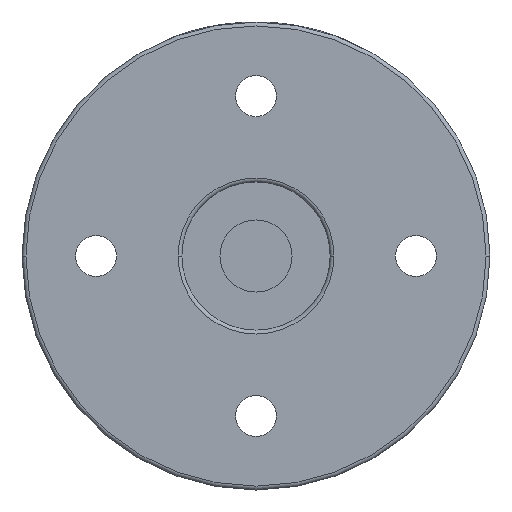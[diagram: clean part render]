
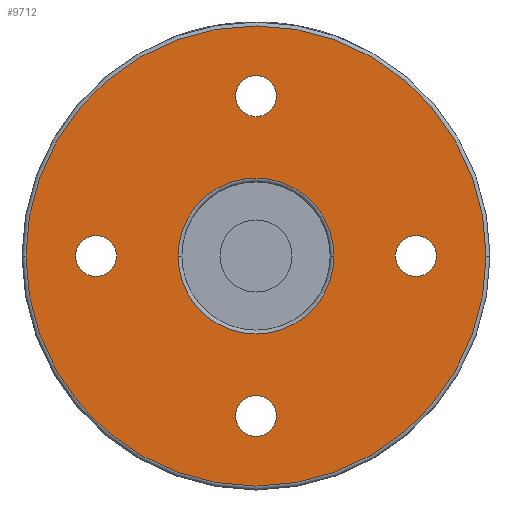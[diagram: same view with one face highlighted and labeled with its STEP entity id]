
A CAD part, front view. The second image highlights one B-rep face of the part: STEP entity #9712.
In plain terms, the highlighted planar face has unit normal (0, -1, 0) as drawn and (0, 0, 1) by its records, which use the part's own axes.
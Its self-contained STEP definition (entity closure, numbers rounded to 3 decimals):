
#166 = VERTEX_POINT ( 'NONE', #3824 ) ;
#377 = AXIS2_PLACEMENT_3D ( 'NONE', #1716, #9563, #7473 ) ;
#520 = CARTESIAN_POINT ( 'NONE',  ( 35.75, 0., 35. ) ) ;
#676 = EDGE_CURVE ( 'NONE', #6765, #10654, #13792, .T. ) ;
#801 = ORIENTED_EDGE ( 'NONE', *, *, #11173, .T. ) ;
#800 = AXIS2_PLACEMENT_3D ( 'NONE', #3874, #2967, #6137 ) ;
#1041 = AXIS2_PLACEMENT_3D ( 'NONE', #6013, #12814, #2551 ) ;
#1268 = DIRECTION ( 'NONE',  ( 1., 0., 0. ) ) ;
#1273 = ORIENTED_EDGE ( 'NONE', *, *, #13368, .T. ) ;
#1646 = FACE_BOUND ( 'NONE', #10954, .T. ) ;
#1716 = CARTESIAN_POINT ( 'NONE',  ( 41., 0., 35. ) ) ;
#1816 = DIRECTION ( 'NONE',  ( 1., 0., 0. ) ) ;
#2011 = CARTESIAN_POINT ( 'NONE',  ( -5.25, 41., 35. ) ) ;
#2174 = VERTEX_POINT ( 'NONE', #8607 ) ;
#2231 = CIRCLE ( 'NONE', #3890, 5.25 ) ;
#2266 = ORIENTED_EDGE ( 'NONE', *, *, #11697, .T. ) ;
#2473 = DIRECTION ( 'NONE',  ( 0., 0., -1. ) ) ;
#2551 = DIRECTION ( 'NONE',  ( 1., 0., 0. ) ) ;
#2788 = ORIENTED_EDGE ( 'NONE', *, *, #14202, .T. ) ;
#2918 = CARTESIAN_POINT ( 'NONE',  ( 5.25, -41., 35. ) ) ;
#2967 = DIRECTION ( 'NONE',  ( 0., 0., 1. ) ) ;
#3012 = EDGE_LOOP ( 'NONE', ( #6805, #14519 ) ) ;
#3289 = DIRECTION ( 'NONE',  ( 0., 0., -1. ) ) ;
#3545 = ORIENTED_EDGE ( 'NONE', *, *, #4214, .T. ) ;
#3628 = ORIENTED_EDGE ( 'NONE', *, *, #7937, .T. ) ;
#3798 = FACE_BOUND ( 'NONE', #4369, .T. ) ;
#3824 = CARTESIAN_POINT ( 'NONE',  ( -59., 0., 35. ) ) ;
#3874 = CARTESIAN_POINT ( 'NONE',  ( 0., 0., 35. ) ) ;
#3890 = AXIS2_PLACEMENT_3D ( 'NONE', #8916, #5699, #14612 ) ;
#3981 = AXIS2_PLACEMENT_3D ( 'NONE', #11670, #2473, #6973 ) ;
#4007 = VERTEX_POINT ( 'NONE', #12472 ) ;
#4050 = CARTESIAN_POINT ( 'NONE',  ( 5.25, 41., 35. ) ) ;
#4166 = CARTESIAN_POINT ( 'NONE',  ( 0., 41., 35. ) ) ;
#4214 = EDGE_CURVE ( 'NONE', #10654, #6765, #14689, .T. ) ;
#4233 = CARTESIAN_POINT ( 'NONE',  ( 0., -41., 35. ) ) ;
#4369 = EDGE_LOOP ( 'NONE', ( #8661, #3545 ) ) ;
#4555 = CARTESIAN_POINT ( 'NONE',  ( 0., 0., 35. ) ) ;
#4812 = CIRCLE ( 'NONE', #6725, 20. ) ;
#4887 = CARTESIAN_POINT ( 'NONE',  ( 0., 0., 35. ) ) ;
#5004 = FACE_BOUND ( 'NONE', #12828, .T. ) ;
#5436 = AXIS2_PLACEMENT_3D ( 'NONE', #4166, #13297, #12022 ) ;
#5564 = EDGE_CURVE ( 'NONE', #2174, #9756, #5864, .T. ) ;
#5580 = ORIENTED_EDGE ( 'NONE', *, *, #5564, .T. ) ;
#5699 = DIRECTION ( 'NONE',  ( 0., 0., -1. ) ) ;
#5864 = CIRCLE ( 'NONE', #377, 5.25 ) ;
#6013 = CARTESIAN_POINT ( 'NONE',  ( 41., 0., 35. ) ) ;
#6137 = DIRECTION ( 'NONE',  ( 1., 0., 0. ) ) ;
#6725 = AXIS2_PLACEMENT_3D ( 'NONE', #4555, #9264, #1268 ) ;
#6729 = VERTEX_POINT ( 'NONE', #14753 ) ;
#6765 = VERTEX_POINT ( 'NONE', #13545 ) ;
#6805 = ORIENTED_EDGE ( 'NONE', *, *, #7964, .T. ) ;
#6973 = DIRECTION ( 'NONE',  ( 1., 0., 0. ) ) ;
#7093 = AXIS2_PLACEMENT_3D ( 'NONE', #14690, #3289, #11818 ) ;
#7473 = DIRECTION ( 'NONE',  ( 1., 0., 0. ) ) ;
#7704 = EDGE_CURVE ( 'NONE', #166, #6729, #9626, .T. ) ;
#7937 = EDGE_CURVE ( 'NONE', #9756, #2174, #14408, .T. ) ;
#7964 = EDGE_CURVE ( 'NONE', #6729, #166, #9869, .T. ) ;
#7998 = ORIENTED_EDGE ( 'NONE', *, *, #12572, .T. ) ;
#8204 = EDGE_CURVE ( 'NONE', #8904, #9943, #2231, .T. ) ;
#8235 = AXIS2_PLACEMENT_3D ( 'NONE', #4233, #8798, #10272 ) ;
#8552 = CIRCLE ( 'NONE', #11138, 5.25 ) ;
#8607 = CARTESIAN_POINT ( 'NONE',  ( 46.25, 0., 35. ) ) ;
#8640 = EDGE_LOOP ( 'NONE', ( #3628, #5580 ) ) ;
#8661 = ORIENTED_EDGE ( 'NONE', *, *, #676, .T. ) ;
#8672 = CARTESIAN_POINT ( 'NONE',  ( 0., 0., 35. ) ) ;
#8798 = DIRECTION ( 'NONE',  ( 0., 0., -1. ) ) ;
#8807 = CARTESIAN_POINT ( 'NONE',  ( -41., 0., 35. ) ) ;
#8904 = VERTEX_POINT ( 'NONE', #4050 ) ;
#8916 = CARTESIAN_POINT ( 'NONE',  ( 0., 41., 35. ) ) ;
#9264 = DIRECTION ( 'NONE',  ( 0., 0., -1. ) ) ;
#9366 = DIRECTION ( 'NONE',  ( 0., 0., 1. ) ) ;
#9492 = FACE_OUTER_BOUND ( 'NONE', #3012, .T. ) ;
#9563 = DIRECTION ( 'NONE',  ( 0., 0., -1. ) ) ;
#9593 = CIRCLE ( 'NONE', #13192, 5.25 ) ;
#9624 = CARTESIAN_POINT ( 'NONE',  ( -35.75, 0., 35. ) ) ;
#9626 = CIRCLE ( 'NONE', #800, 59. ) ;
#9712 = ADVANCED_FACE ( 'NONE', ( #9492, #5004, #10752, #1646, #3798, #10823 ), #14348, .T. ) ;
#9735 = DIRECTION ( 'NONE',  ( 0., 0., -1. ) ) ;
#9756 = VERTEX_POINT ( 'NONE', #520 ) ;
#9869 = CIRCLE ( 'NONE', #12513, 59. ) ;
#9943 = VERTEX_POINT ( 'NONE', #2011 ) ;
#10034 = CARTESIAN_POINT ( 'NONE',  ( -46.25, 0., 35. ) ) ;
#10272 = DIRECTION ( 'NONE',  ( 1., 0., 0. ) ) ;
#10654 = VERTEX_POINT ( 'NONE', #2918 ) ;
#10752 = FACE_BOUND ( 'NONE', #11205, .T. ) ;
#10823 = FACE_BOUND ( 'NONE', #8640, .T. ) ;
#10880 = VERTEX_POINT ( 'NONE', #10034 ) ;
#10921 = CIRCLE ( 'NONE', #5436, 5.25 ) ;
#10954 = EDGE_LOOP ( 'NONE', ( #7998, #801 ) ) ;
#11138 = AXIS2_PLACEMENT_3D ( 'NONE', #12203, #9735, #1816 ) ;
#11173 = EDGE_CURVE ( 'NONE', #11652, #10880, #9593, .T. ) ;
#11205 = EDGE_LOOP ( 'NONE', ( #2266, #11320 ) ) ;
#11320 = ORIENTED_EDGE ( 'NONE', *, *, #8204, .T. ) ;
#11632 = CARTESIAN_POINT ( 'NONE',  ( -20., 0., 35. ) ) ;
#11652 = VERTEX_POINT ( 'NONE', #9624 ) ;
#11670 = CARTESIAN_POINT ( 'NONE',  ( 0., -41., 35. ) ) ;
#11697 = EDGE_CURVE ( 'NONE', #9943, #8904, #10921, .T. ) ;
#11818 = DIRECTION ( 'NONE',  ( 1., 0., 0. ) ) ;
#12022 = DIRECTION ( 'NONE',  ( 1., 0., 0. ) ) ;
#12107 = DIRECTION ( 'NONE',  ( 0., 0., 1. ) ) ;
#12203 = CARTESIAN_POINT ( 'NONE',  ( -41., 0., 35. ) ) ;
#12463 = DIRECTION ( 'NONE',  ( 0., 0., -1. ) ) ;
#12472 = CARTESIAN_POINT ( 'NONE',  ( 20., 0., 35. ) ) ;
#12513 = AXIS2_PLACEMENT_3D ( 'NONE', #4887, #9366, #14078 ) ;
#12539 = DIRECTION ( 'NONE',  ( 1., 0., 0. ) ) ;
#12572 = EDGE_CURVE ( 'NONE', #10880, #11652, #8552, .T. ) ;
#12814 = DIRECTION ( 'NONE',  ( 0., 0., -1. ) ) ;
#12828 = EDGE_LOOP ( 'NONE', ( #1273, #2788 ) ) ;
#13008 = DIRECTION ( 'NONE',  ( 1., 0., 0. ) ) ;
#13192 = AXIS2_PLACEMENT_3D ( 'NONE', #8807, #12463, #12539 ) ;
#13297 = DIRECTION ( 'NONE',  ( 0., 0., -1. ) ) ;
#13368 = EDGE_CURVE ( 'NONE', #4007, #14653, #14512, .T. ) ;
#13374 = AXIS2_PLACEMENT_3D ( 'NONE', #8672, #12107, #13008 ) ;
#13545 = CARTESIAN_POINT ( 'NONE',  ( -5.25, -41., 35. ) ) ;
#13792 = CIRCLE ( 'NONE', #3981, 5.25 ) ;
#14078 = DIRECTION ( 'NONE',  ( 1., 0., 0. ) ) ;
#14202 = EDGE_CURVE ( 'NONE', #14653, #4007, #4812, .T. ) ;
#14348 = PLANE ( 'NONE',  #13374 ) ;
#14408 = CIRCLE ( 'NONE', #1041, 5.25 ) ;
#14512 = CIRCLE ( 'NONE', #7093, 20. ) ;
#14519 = ORIENTED_EDGE ( 'NONE', *, *, #7704, .T. ) ;
#14612 = DIRECTION ( 'NONE',  ( 1., 0., 0. ) ) ;
#14653 = VERTEX_POINT ( 'NONE', #11632 ) ;
#14689 = CIRCLE ( 'NONE', #8235, 5.25 ) ;
#14690 = CARTESIAN_POINT ( 'NONE',  ( 0., 0., 35. ) ) ;
#14753 = CARTESIAN_POINT ( 'NONE',  ( 59., 0., 35. ) ) ;
